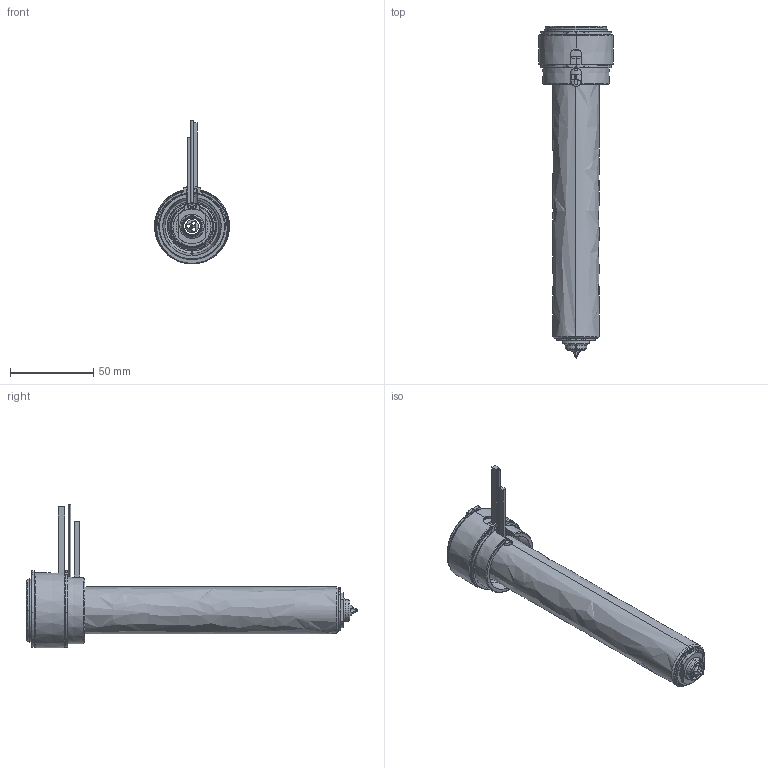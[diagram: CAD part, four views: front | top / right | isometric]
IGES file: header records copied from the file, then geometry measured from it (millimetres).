
Start section: SolidWorks IGES file using analytic representation for surfaces
Global section: file name: C:\Documents and Settings\ws-20\Desktop\TEM\UGEP4504-M-A-0 [Øf-0.88 ØC-10].IGS; native system: SolidWorks 2012; preprocessor: SolidWorks 2012; author: ws-20; date: 120424.090841; units: millimetre
Bounding box: 45 x 199.05 x 86.15 mm (x, y, z)
Surface area: 68269.1 mm2 (no closed solid volume)
Topology: 0 solids, 0 shells, 181 faces, 3386 edges, 3386 vertices
Faces by surface type: revolution 112, bspline 69
